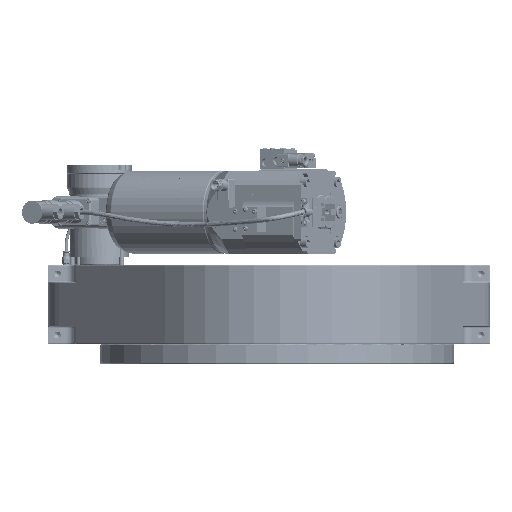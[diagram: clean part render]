
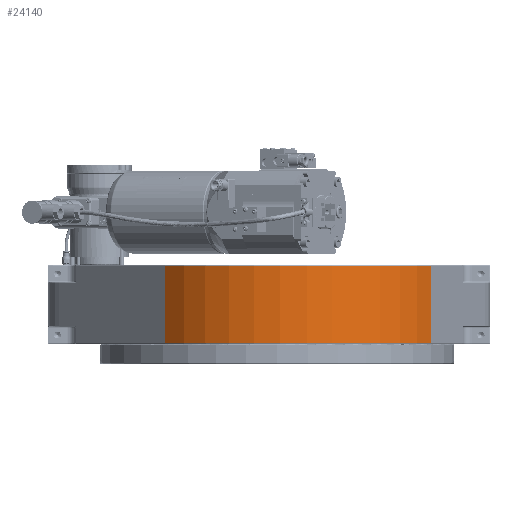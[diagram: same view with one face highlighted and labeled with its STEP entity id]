
A CAD part, front view. The second image highlights one B-rep face of the part: STEP entity #24140.
In plain terms, the highlighted cylindrical face has radius 195 mm (diameter 390 mm), a partial arc.
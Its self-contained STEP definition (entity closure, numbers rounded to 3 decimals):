
#18243=FACE_OUTER_BOUND('',#50653,.T.);
#21960=CYLINDRICAL_SURFACE('',#106172,195.);
#24140=ADVANCED_FACE('',(#18243),#21960,.T.);
#31921=LINE('',#145144,#37408);
#31935=LINE('',#145177,#37422);
#37408=VECTOR('',#116710,1.);
#37422=VECTOR('',#116734,1.);
#43155=CIRCLE('',#106170,195.);
#43156=CIRCLE('',#106171,195.);
#50653=EDGE_LOOP('',(#60057,#60058,#60059,#60060));
#60057=ORIENTED_EDGE('',*,*,#91623,.F.);
#60058=ORIENTED_EDGE('',*,*,#91627,.T.);
#60059=ORIENTED_EDGE('',*,*,#91607,.T.);
#60060=ORIENTED_EDGE('',*,*,#91628,.T.);
#82635=VERTEX_POINT('',#145143);
#82636=VERTEX_POINT('',#145145);
#82649=VERTEX_POINT('',#145176);
#82650=VERTEX_POINT('',#145178);
#91607=EDGE_CURVE('',#82636,#82635,#31921,.T.);
#91623=EDGE_CURVE('',#82649,#82650,#31935,.T.);
#91627=EDGE_CURVE('',#82649,#82636,#43155,.T.);
#91628=EDGE_CURVE('',#82635,#82650,#43156,.T.);
#106170=AXIS2_PLACEMENT_3D('',#145185,#116740,#116741);
#106171=AXIS2_PLACEMENT_3D('',#145186,#116742,#116743);
#106172=AXIS2_PLACEMENT_3D('',#145187,#116744,#116745);
#116710=DIRECTION('',(0.,0.,-1.));
#116734=DIRECTION('',(0.,0.,-1.));
#116740=DIRECTION('',(0.,0.,-1.));
#116741=DIRECTION('',(-1.,0.,0.));
#116742=DIRECTION('',(0.,0.,1.));
#116743=DIRECTION('',(1.,0.,0.));
#116744=DIRECTION('',(0.,0.,-1.));
#116745=DIRECTION('',(-1.,0.,0.));
#145143=CARTESIAN_POINT('',(173.29,192.417,-46.5));
#145144=CARTESIAN_POINT('',(173.29,192.417,48.));
#145145=CARTESIAN_POINT('',(173.29,192.417,46.5));
#145176=CARTESIAN_POINT('',(-147.889,230.098,46.5));
#145177=CARTESIAN_POINT('',(-147.889,230.098,48.));
#145178=CARTESIAN_POINT('',(-147.889,230.098,-46.5));
#145185=CARTESIAN_POINT('',(0.,103.,46.5));
#145186=CARTESIAN_POINT('',(0.,103.,-46.5));
#145187=CARTESIAN_POINT('',(0.,103.,48.));
